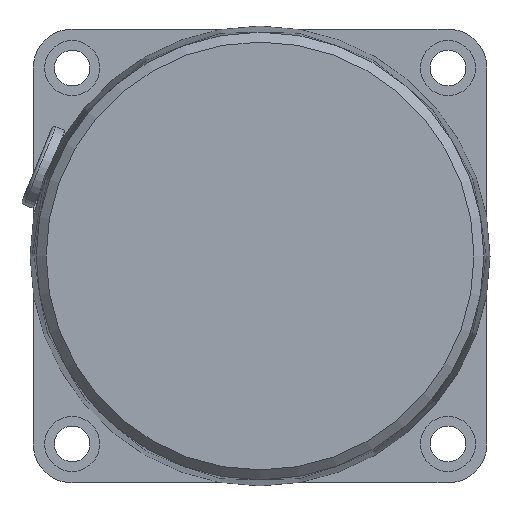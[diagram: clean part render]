
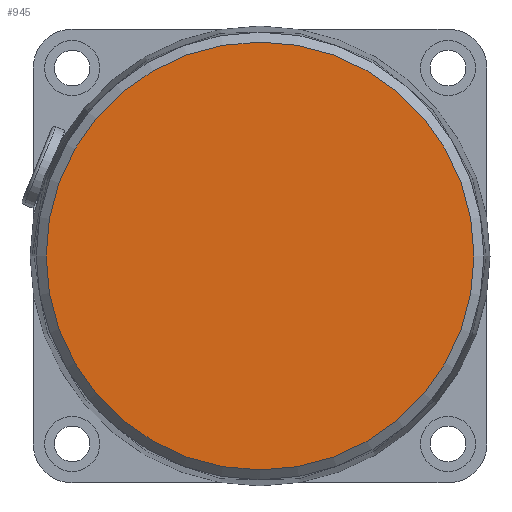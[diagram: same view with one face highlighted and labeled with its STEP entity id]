
A CAD part, left-side view. The second image highlights one B-rep face of the part: STEP entity #945.
In plain terms, the highlighted planar face has unit normal (-1, 0, 0).
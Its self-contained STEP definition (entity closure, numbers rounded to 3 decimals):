
#914=CARTESIAN_POINT('',(-35.5,33.,0.));
#915=VERTEX_POINT('',#914);
#916=CARTESIAN_POINT('',(-35.5,0.,0.));
#917=DIRECTION('',(1.0,0.0,0.0));
#918=DIRECTION('',(0.0,-1.0,0.0));
#919=AXIS2_PLACEMENT_3D('',#916,#917,#918);
#920=CIRCLE('',#919,33.0);
#921=EDGE_CURVE('',#915,#915,#920,.T.);
#937=CARTESIAN_POINT('',(-35.5,0.,0.));
#938=DIRECTION('',(1.0,0.0,0.0));
#939=DIRECTION('',(0.0,-1.0,0.0));
#940=AXIS2_PLACEMENT_3D('',#937,#938,#939);
#941=PLANE('',#940);
#942=ORIENTED_EDGE('',*,*,#921,.F.);
#943=EDGE_LOOP('',(#942));
#944=FACE_OUTER_BOUND('',#943,.T.);
#945=ADVANCED_FACE('',(#944),#941,.F.);
